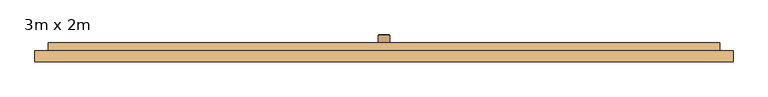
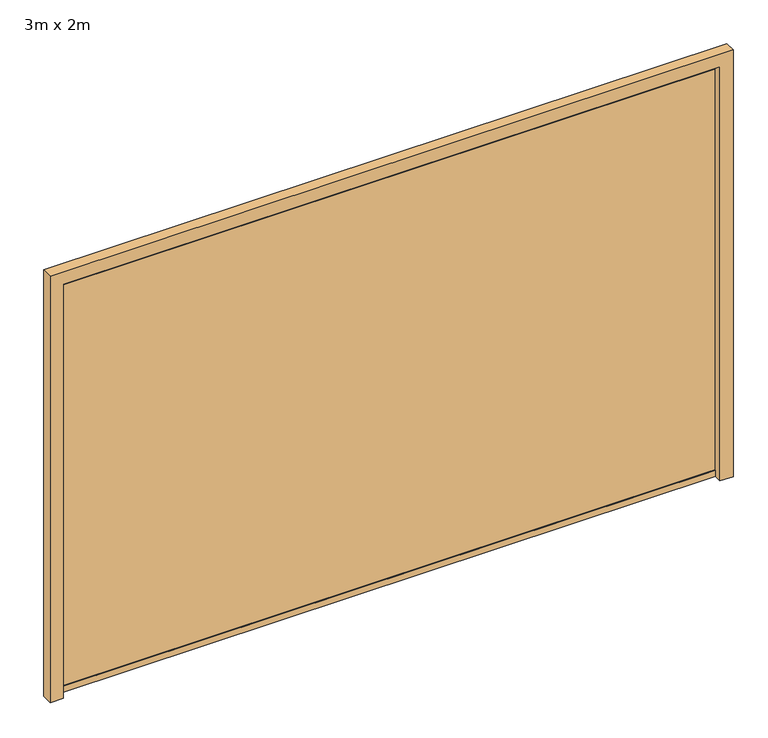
"""IFC4 building model written with IfcOpenShell, lengths in millimetres: door geometry, Garage basculante : 3m x 2m."""

from ifc_helpers import new_model, si_unit, frame, origin, place, context, project, spatial, polyline, circle_curve, outline, extrude, faceted_brep, source, transform, mapped, element, save
from ifc_brep_helpers import plane_surface, cylinder_surface, revolved_surface, advanced_brep


def door_3m_x_2m_7024977f(model_context):
    return source(origin(), model_context, "Body", "SolidModel", [
        advanced_brep(
        [(-37.902088, -383.5523258, 500.0), (7.902088, -383.5523258, 500.0), (10.0, -385.6502378, 500.0), (-40.0, -385.6502378, 500.0), (-15.0, -383.5523258, 500.0), (-40.0, -423.5523258, 500.0), (10.0, -423.5523258, 500.0), (-15.0, -423.5523258, 500.0)],
        [
            (0, 1, circle_curve(frame((-15.0, -383.5523258, 500.0), z_axis=(0.0, -1.0, 0.0), x_axis=(1.0, 0.0, 0.0)), 22.902088)),
            (1, 2),
            (2, 3, circle_curve(frame((-15.0, -385.6502378, 500.0), z_axis=(0.0, 1.0, 0.0), x_axis=(1.0, 0.0, 0.0)), 25.0)),
            (3, 0),
            (1, 0, circle_curve(frame((-15.0, -383.5523258, 500.0), z_axis=(0.0, -1.0, 0.0), x_axis=(1.0, 0.0, 0.0)), 22.902088)),
            (3, 2, circle_curve(frame((-15.0, -385.6502378, 500.0), z_axis=(0.0, 1.0, 0.0), x_axis=(1.0, 0.0, 0.0)), 25.0)),
            (4, 1),
            (0, 4),
            (5, 6, circle_curve(frame((-15.0, -423.5523258, 500.0), z_axis=(0.0, -1.0, 0.0), x_axis=(1.0, 0.0, 0.0)), 25.0)),
            (6, 7),
            (7, 5),
            (6, 5, circle_curve(frame((-15.0, -423.5523258, 500.0), z_axis=(0.0, -1.0, 0.0), x_axis=(1.0, 0.0, 0.0)), 25.0)),
            (2, 6),
            (5, 3),
        ],
        [
            revolved_surface(polyline([(10.0, -385.6502378, 500.0), (7.902088, -383.5523258, 500.0)]), (-15.0, 971.1651436, 500.0), (0.0, 1.0, 0.0)),
            plane_surface(frame((-15.0, -383.5523258, 500.0), z_axis=(0.0, 1.0, 0.0), x_axis=(1.0, 0.0, 0.0))),
            plane_surface(frame((-15.0, -423.5523258, 500.0), z_axis=(0.0, -1.0, 0.0), x_axis=(1.0, 0.0, 0.0))),
            cylinder_surface(frame((-15.0, 971.1651436, 500.0), z_axis=(0.0, 1.0, 0.0), x_axis=(1.0, 0.0, 0.0)), 25.0),
        ],
        [
            (0, [[1, 2, 3, 4]]),
            (0, [[5, -4, 6, -2]]),
            (1, [[7, -1, 8]]),
            (1, [[-8, -5, -7]]),
            (2, [[9, 10, 11]]),
            (2, [[12, -11, -10]]),
            (3, [[-3, 13, -9, 14]]),
            (3, [[-6, -14, -12, -13]]),
        ],
    ),
        faceted_brep([(-1515.0, -468.5523258, 2000.0), (1485.0, -468.5523258, 2000.0), (1485.0, -418.5523258, 2000.0), (-1515.0, -418.5523258, 2000.0), (1485.0, -468.5523258, 0.0), (-1515.0, -468.5523258, 0.0), (-1515.0, -418.5523258, 0.0), (1485.0, -418.5523258, 0.0), (1398.2258065, -433.5523258, 1970.0), (1398.2258065, -433.5523258, 30.0), (1378.2258065, -433.5523258, 30.0), (1378.2258065, -433.5523258, 1970.0), (1378.2258065, -423.5523258, 30.0), (1378.2258065, -423.5523258, 1970.0), (1301.4516129, -423.5523258, 30.0), (1301.4516129, -423.5523258, 1970.0), (1301.4516129, -433.5523258, 30.0), (1301.4516129, -433.5523258, 1970.0), (1281.4516129, -433.5523258, 30.0), (1281.4516129, -433.5523258, 1970.0), (1281.4516129, -423.5523258, 30.0), (1281.4516129, -423.5523258, 1970.0), (1204.6774194, -423.5523258, 30.0), (1204.6774194, -423.5523258, 1970.0), (1204.6774194, -433.5523258, 30.0), (1204.6774194, -433.5523258, 1970.0), (1184.6774194, -433.5523258, 30.0), (1184.6774194, -433.5523258, 1970.0), (1184.6774194, -423.5523258, 30.0), (1184.6774194, -423.5523258, 1970.0), (1107.9032258, -423.5523258, 30.0), (1107.9032258, -423.5523258, 1970.0), (1107.9032258, -433.5523258, 30.0), (1107.9032258, -433.5523258, 1970.0), (1087.9032258, -433.5523258, 30.0), (1087.9032258, -433.5523258, 1970.0), (1087.9032258, -423.5523258, 30.0), (1087.9032258, -423.5523258, 1970.0), (1011.1290323, -423.5523258, 30.0), (1011.1290323, -423.5523258, 1970.0), (1011.1290323, -433.5523258, 30.0), (1011.1290323, -433.5523258, 1970.0), (991.1290323, -433.5523258, 30.0), (991.1290323, -433.5523258, 1970.0), (991.1290323, -423.5523258, 30.0), (991.1290323, -423.5523258, 1970.0), (914.3548387, -423.5523258, 30.0), (914.3548387, -423.5523258, 1970.0), (914.3548387, -433.5523258, 30.0), (914.3548387, -433.5523258, 1970.0), (894.3548387, -433.5523258, 30.0), (894.3548387, -433.5523258, 1970.0), (894.3548387, -423.5523258, 30.0), (894.3548387, -423.5523258, 1970.0), (817.5806452, -423.5523258, 30.0), (817.5806452, -423.5523258, 1970.0), (817.5806452, -433.5523258, 30.0), (817.5806452, -433.5523258, 1970.0), (797.5806452, -433.5523258, 30.0), (797.5806452, -433.5523258, 1970.0), (797.5806452, -423.5523258, 30.0), (797.5806452, -423.5523258, 1970.0), (720.8064516, -423.5523258, 30.0), (720.8064516, -423.5523258, 1970.0), (720.8064516, -433.5523258, 30.0), (720.8064516, -433.5523258, 1970.0), (700.8064516, -433.5523258, 30.0), (700.8064516, -433.5523258, 1970.0), (700.8064516, -423.5523258, 30.0), (700.8064516, -423.5523258, 1970.0), (624.0322581, -423.5523258, 30.0), (624.0322581, -423.5523258, 1970.0), (624.0322581, -433.5523258, 30.0), (624.0322581, -433.5523258, 1970.0), (604.0322581, -433.5523258, 30.0), (604.0322581, -433.5523258, 1970.0), (604.0322581, -423.5523258, 30.0), (604.0322581, -423.5523258, 1970.0), (527.2580645, -423.5523258, 30.0), (527.2580645, -423.5523258, 1970.0), (527.2580645, -433.5523258, 30.0), (527.2580645, -433.5523258, 1970.0), (507.2580645, -433.5523258, 30.0), (507.2580645, -433.5523258, 1970.0), (507.2580645, -423.5523258, 30.0), (507.2580645, -423.5523258, 1970.0), (430.483871, -423.5523258, 30.0), (430.483871, -423.5523258, 1970.0), (430.483871, -433.5523258, 30.0), (430.483871, -433.5523258, 1970.0), (410.483871, -433.5523258, 30.0), (410.483871, -433.5523258, 1970.0), (410.483871, -423.5523258, 30.0), (410.483871, -423.5523258, 1970.0), (333.7096774, -423.5523258, 30.0), (333.7096774, -423.5523258, 1970.0), (333.7096774, -433.5523258, 30.0), (333.7096774, -433.5523258, 1970.0), (313.7096774, -433.5523258, 30.0), (313.7096774, -433.5523258, 1970.0), (313.7096774, -423.5523258, 30.0), (313.7096774, -423.5523258, 1970.0), (236.9354839, -423.5523258, 30.0), (236.9354839, -423.5523258, 1970.0), (236.9354839, -433.5523258, 30.0), (236.9354839, -433.5523258, 1970.0), (216.9354839, -433.5523258, 30.0), (216.9354839, -433.5523258, 1970.0), (216.9354839, -423.5523258, 30.0), (216.9354839, -423.5523258, 1970.0), (140.1612903, -423.5523258, 30.0), (140.1612903, -423.5523258, 1970.0), (140.1612903, -433.5523258, 30.0), (140.1612903, -433.5523258, 1970.0), (120.1612903, -433.5523258, 30.0), (120.1612903, -433.5523258, 1970.0), (120.1612903, -423.5523258, 30.0), (120.1612903, -423.5523258, 1970.0), (43.3870968, -423.5523258, 30.0), (43.3870968, -423.5523258, 1970.0), (43.3870968, -433.5523258, 30.0), (43.3870968, -433.5523258, 1970.0), (23.3870968, -433.5523258, 30.0), (23.3870968, -433.5523258, 1970.0), (23.3870968, -423.5523258, 30.0), (23.3870968, -423.5523258, 1970.0), (-53.3870968, -423.5523258, 30.0), (-53.3870968, -423.5523258, 1970.0), (-53.3870968, -433.5523258, 30.0), (-53.3870968, -433.5523258, 1970.0), (-73.3870968, -433.5523258, 30.0), (-73.3870968, -433.5523258, 1970.0), (-73.3870968, -423.5523258, 30.0), (-73.3870968, -423.5523258, 1970.0), (-150.1612903, -423.5523258, 30.0), (-150.1612903, -423.5523258, 1970.0), (-150.1612903, -433.5523258, 30.0), (-150.1612903, -433.5523258, 1970.0), (-170.1612903, -433.5523258, 30.0), (-170.1612903, -433.5523258, 1970.0), (-170.1612903, -423.5523258, 30.0), (-170.1612903, -423.5523258, 1970.0), (-246.9354839, -423.5523258, 30.0), (-246.9354839, -423.5523258, 1970.0), (-246.9354839, -433.5523258, 30.0), (-246.9354839, -433.5523258, 1970.0), (-266.9354839, -433.5523258, 30.0), (-266.9354839, -433.5523258, 1970.0), (-266.9354839, -423.5523258, 30.0), (-266.9354839, -423.5523258, 1970.0), (-343.7096774, -423.5523258, 30.0), (-343.7096774, -423.5523258, 1970.0), (-343.7096774, -433.5523258, 30.0), (-343.7096774, -433.5523258, 1970.0), (-363.7096774, -433.5523258, 30.0), (-363.7096774, -433.5523258, 1970.0), (-363.7096774, -423.5523258, 30.0), (-363.7096774, -423.5523258, 1970.0), (-440.483871, -423.5523258, 30.0), (-440.483871, -423.5523258, 1970.0), (-440.483871, -433.5523258, 30.0), (-440.483871, -433.5523258, 1970.0), (-460.483871, -433.5523258, 30.0), (-460.483871, -433.5523258, 1970.0), (-460.483871, -423.5523258, 30.0), (-460.483871, -423.5523258, 1970.0), (-537.2580645, -423.5523258, 30.0), (-537.2580645, -423.5523258, 1970.0), (-537.2580645, -433.5523258, 30.0), (-537.2580645, -433.5523258, 1970.0), (-557.2580645, -433.5523258, 30.0), (-557.2580645, -433.5523258, 1970.0), (-557.2580645, -423.5523258, 30.0), (-557.2580645, -423.5523258, 1970.0), (-634.0322581, -423.5523258, 30.0), (-634.0322581, -423.5523258, 1970.0), (-634.0322581, -433.5523258, 30.0), (-634.0322581, -433.5523258, 1970.0), (-654.0322581, -433.5523258, 30.0), (-654.0322581, -433.5523258, 1970.0), (-654.0322581, -423.5523258, 30.0), (-654.0322581, -423.5523258, 1970.0), (-730.8064516, -423.5523258, 30.0), (-730.8064516, -423.5523258, 1970.0), (-730.8064516, -433.5523258, 30.0), (-730.8064516, -433.5523258, 1970.0), (-750.8064516, -433.5523258, 30.0), (-750.8064516, -433.5523258, 1970.0), (-750.8064516, -423.5523258, 30.0), (-750.8064516, -423.5523258, 1970.0), (-827.5806452, -423.5523258, 30.0), (-827.5806452, -423.5523258, 1970.0), (-827.5806452, -433.5523258, 30.0), (-827.5806452, -433.5523258, 1970.0), (-847.5806452, -433.5523258, 30.0), (-847.5806452, -433.5523258, 1970.0), (-847.5806452, -423.5523258, 30.0), (-847.5806452, -423.5523258, 1970.0), (-924.3548387, -423.5523258, 30.0), (-924.3548387, -423.5523258, 1970.0), (-924.3548387, -433.5523258, 30.0), (-924.3548387, -433.5523258, 1970.0), (-944.3548387, -433.5523258, 30.0), (-944.3548387, -433.5523258, 1970.0), (-944.3548387, -423.5523258, 30.0), (-944.3548387, -423.5523258, 1970.0), (-1021.1290323, -423.5523258, 30.0), (-1021.1290323, -423.5523258, 1970.0), (-1021.1290323, -433.5523258, 30.0), (-1021.1290323, -433.5523258, 1970.0), (-1041.1290323, -433.5523258, 30.0), (-1041.1290323, -433.5523258, 1970.0), (-1041.1290323, -423.5523258, 30.0), (-1041.1290323, -423.5523258, 1970.0), (-1117.9032258, -423.5523258, 30.0), (-1117.9032258, -423.5523258, 1970.0), (-1117.9032258, -433.5523258, 30.0), (-1117.9032258, -433.5523258, 1970.0), (-1137.9032258, -433.5523258, 30.0), (-1137.9032258, -433.5523258, 1970.0), (-1137.9032258, -423.5523258, 30.0), (-1137.9032258, -423.5523258, 1970.0), (-1214.6774194, -423.5523258, 30.0), (-1214.6774194, -423.5523258, 1970.0), (-1214.6774194, -433.5523258, 30.0), (-1214.6774194, -433.5523258, 1970.0), (-1234.6774194, -433.5523258, 30.0), (-1234.6774194, -433.5523258, 1970.0), (-1234.6774194, -423.5523258, 30.0), (-1234.6774194, -423.5523258, 1970.0), (-1311.4516129, -423.5523258, 30.0), (-1311.4516129, -423.5523258, 1970.0), (-1311.4516129, -433.5523258, 30.0), (-1311.4516129, -433.5523258, 1970.0), (-1331.4516129, -433.5523258, 30.0), (-1331.4516129, -433.5523258, 1970.0), (-1331.4516129, -423.5523258, 30.0), (-1331.4516129, -423.5523258, 1970.0), (-1408.2258065, -423.5523258, 30.0), (-1408.2258065, -423.5523258, 1970.0), (-1408.2258065, -433.5523258, 30.0), (-1408.2258065, -433.5523258, 1970.0), (-1428.2258065, -433.5523258, 30.0), (-1428.2258065, -433.5523258, 1970.0), (-1428.2258065, -423.5523258, 30.0), (-1428.2258065, -423.5523258, 1970.0), (-1515.0, -423.5523258, 30.0), (-1515.0, -423.5523258, 1970.0), (-1515.0, -418.5523258, 1970.0), (-1515.0, -418.5523258, 30.0), (-1515.0, -468.5523258, 30.0), (-1515.0, -463.5523258, 30.0), (-1515.0, -463.5523258, 1970.0), (-1515.0, -468.5523258, 1970.0), (1485.0, -463.5523258, 30.0), (1485.0, -463.5523258, 1970.0), (1485.0, -468.5523258, 1970.0), (1485.0, -468.5523258, 30.0), (1485.0, -418.5523258, 30.0), (1485.0, -423.5523258, 30.0), (1485.0, -423.5523258, 1970.0), (1485.0, -418.5523258, 1970.0), (1398.2258065, -423.5523258, 30.0), (1398.2258065, -423.5523258, 1970.0)], [[[0, 1, 2, 3]], [[4, 5, 6, 7]], [[8, 9, 10, 11]], [[11, 10, 12, 13]], [[13, 12, 14, 15]], [[15, 14, 16, 17]], [[17, 16, 18, 19]], [[19, 18, 20, 21]], [[21, 20, 22, 23]], [[23, 22, 24, 25]], [[25, 24, 26, 27]], [[27, 26, 28, 29]], [[29, 28, 30, 31]], [[31, 30, 32, 33]], [[33, 32, 34, 35]], [[35, 34, 36, 37]], [[37, 36, 38, 39]], [[39, 38, 40, 41]], [[41, 40, 42, 43]], [[43, 42, 44, 45]], [[45, 44, 46, 47]], [[47, 46, 48, 49]], [[49, 48, 50, 51]], [[51, 50, 52, 53]], [[53, 52, 54, 55]], [[55, 54, 56, 57]], [[57, 56, 58, 59]], [[59, 58, 60, 61]], [[61, 60, 62, 63]], [[63, 62, 64, 65]], [[65, 64, 66, 67]], [[67, 66, 68, 69]], [[69, 68, 70, 71]], [[71, 70, 72, 73]], [[73, 72, 74, 75]], [[75, 74, 76, 77]], [[77, 76, 78, 79]], [[79, 78, 80, 81]], [[81, 80, 82, 83]], [[83, 82, 84, 85]], [[85, 84, 86, 87]], [[87, 86, 88, 89]], [[89, 88, 90, 91]], [[91, 90, 92, 93]], [[93, 92, 94, 95]], [[95, 94, 96, 97]], [[97, 96, 98, 99]], [[99, 98, 100, 101]], [[101, 100, 102, 103]], [[103, 102, 104, 105]], [[105, 104, 106, 107]], [[107, 106, 108, 109]], [[109, 108, 110, 111]], [[111, 110, 112, 113]], [[113, 112, 114, 115]], [[115, 114, 116, 117]], [[117, 116, 118, 119]], [[119, 118, 120, 121]], [[121, 120, 122, 123]], [[123, 122, 124, 125]], [[125, 124, 126, 127]], [[127, 126, 128, 129]], [[129, 128, 130, 131]], [[131, 130, 132, 133]], [[133, 132, 134, 135]], [[135, 134, 136, 137]], [[137, 136, 138, 139]], [[139, 138, 140, 141]], [[141, 140, 142, 143]], [[143, 142, 144, 145]], [[145, 144, 146, 147]], [[147, 146, 148, 149]], [[149, 148, 150, 151]], [[151, 150, 152, 153]], [[153, 152, 154, 155]], [[155, 154, 156, 157]], [[157, 156, 158, 159]], [[159, 158, 160, 161]], [[161, 160, 162, 163]], [[163, 162, 164, 165]], [[165, 164, 166, 167]], [[167, 166, 168, 169]], [[169, 168, 170, 171]], [[171, 170, 172, 173]], [[173, 172, 174, 175]], [[175, 174, 176, 177]], [[177, 176, 178, 179]], [[179, 178, 180, 181]], [[181, 180, 182, 183]], [[183, 182, 184, 185]], [[185, 184, 186, 187]], [[187, 186, 188, 189]], [[189, 188, 190, 191]], [[191, 190, 192, 193]], [[193, 192, 194, 195]], [[195, 194, 196, 197]], [[197, 196, 198, 199]], [[199, 198, 200, 201]], [[201, 200, 202, 203]], [[203, 202, 204, 205]], [[205, 204, 206, 207]], [[207, 206, 208, 209]], [[209, 208, 210, 211]], [[211, 210, 212, 213]], [[213, 212, 214, 215]], [[215, 214, 216, 217]], [[217, 216, 218, 219]], [[219, 218, 220, 221]], [[221, 220, 222, 223]], [[223, 222, 224, 225]], [[225, 224, 226, 227]], [[227, 226, 228, 229]], [[229, 228, 230, 231]], [[231, 230, 232, 233]], [[233, 232, 234, 235]], [[235, 234, 236, 237]], [[237, 236, 238, 239]], [[239, 238, 240, 241]], [[241, 240, 242, 243]], [[243, 242, 244, 245]], [[245, 244, 246, 247]], [[0, 3, 248, 247, 246, 249, 6, 5, 250, 251, 252, 253]], [[252, 251, 254, 255]], [[2, 1, 256, 255, 254, 257, 4, 7, 258, 259, 260, 261]], [[260, 259, 262, 263]], [[9, 8, 263, 262]], [[256, 253, 252, 255]], [[248, 261, 260, 263, 8, 11, 13, 15, 17, 19, 21, 23, 25, 27, 29, 31, 33, 35, 37, 39, 41, 43, 45, 47, 49, 51, 53, 55, 57, 59, 61, 63, 65, 67, 69, 71, 73, 75, 77, 79, 81, 83, 85, 87, 89, 91, 93, 95, 97, 99, 101, 103, 105, 107, 109, 111, 113, 115, 117, 119, 121, 123, 125, 127, 129, 131, 133, 135, 137, 139, 141, 143, 145, 147, 149, 151, 153, 155, 157, 159, 161, 163, 165, 167, 169, 171, 173, 175, 177, 179, 181, 183, 185, 187, 189, 191, 193, 195, 197, 199, 201, 203, 205, 207, 209, 211, 213, 215, 217, 219, 221, 223, 225, 227, 229, 231, 233, 235, 237, 239, 241, 243, 245, 247]], [[2, 261, 248, 3]], [[256, 1, 0, 253]], [[4, 257, 250, 5]], [[258, 7, 6, 249]], [[250, 257, 254, 251]], [[258, 249, 246, 244, 242, 240, 238, 236, 234, 232, 230, 228, 226, 224, 222, 220, 218, 216, 214, 212, 210, 208, 206, 204, 202, 200, 198, 196, 194, 192, 190, 188, 186, 184, 182, 180, 178, 176, 174, 172, 170, 168, 166, 164, 162, 160, 158, 156, 154, 152, 150, 148, 146, 144, 142, 140, 138, 136, 134, 132, 130, 128, 126, 124, 122, 120, 118, 116, 114, 112, 110, 108, 106, 104, 102, 100, 98, 96, 94, 92, 90, 88, 86, 84, 82, 80, 78, 76, 74, 72, 70, 68, 66, 64, 62, 60, 58, 56, 54, 52, 50, 48, 46, 44, 42, 40, 38, 36, 34, 32, 30, 28, 26, 24, 22, 20, 18, 16, 14, 12, 10, 9, 262, 259]]]),
        extrude(outline(polyline([(0.0, -1575.0), (0.0, -1515.0), (2000.0, -1515.0), (2000.0, 1485.0), (0.0, 1485.0), (0.0, 1545.0), (2060.0, 1545.0), (2060.0, -1575.0), (0.0, -1575.0)])), frame((0.0, -503.5523258, 0.0), z_axis=(0.0, 1.0, 0.0), x_axis=(0.0, 0.0, 1.0)), (0.0, 0.0, 1.0), 50.0),
    ])


if __name__ == "__main__":
    model = new_model("IFC4")
    model_context = context("Model", 3, world=origin())
    ifc_project = project(units=[si_unit("LENGTHUNIT", "METRE", prefix="MILLI")], contexts=[model_context])
    site = spatial("IfcSite", under=ifc_project)
    building = spatial("IfcBuilding", under=site)
    placement = place(None, origin())
    door_3m_x_2m_shape = door_3m_x_2m_7024977f(model_context)
    element("IfcDoor", 1, ObjectType="Garage basculante : 3m x 2m", at=placement, inside=building, context=model_context, shape_type="MappedRepresentation", body=[
        mapped(door_3m_x_2m_shape, transform((0.0, 0.0, 0.0), x_axis=(1.0, 0.0, 0.0), y_axis=(0.0, 1.0, 0.0), z_axis=(0.0, 0.0, 1.0))),
    ])
    save(model, "model.ifc")
